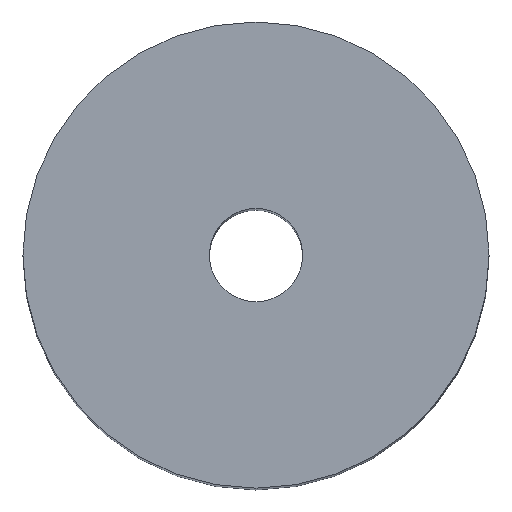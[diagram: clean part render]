
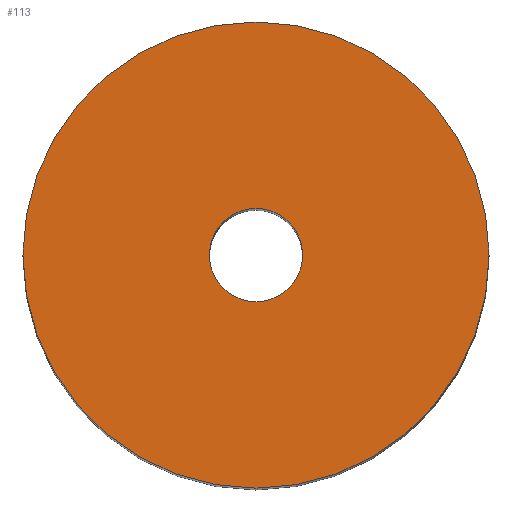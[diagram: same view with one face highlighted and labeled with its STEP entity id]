
A CAD part, top view. The second image highlights one B-rep face of the part: STEP entity #113.
In plain terms, the highlighted planar face has unit normal (0, 0, 1).
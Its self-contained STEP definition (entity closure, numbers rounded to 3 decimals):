
#113=ADVANCED_FACE('',(#121,#122),#119,.T.);
#119=PLANE('',#190);
#121=FACE_BOUND('',#125,.T.);
#122=FACE_BOUND('',#126,.T.);
#125=EDGE_LOOP('',(#133,#134));
#126=EDGE_LOOP('',(#135,#136));
#133=ORIENTED_EDGE('',*,*,#165,.T.);
#134=ORIENTED_EDGE('',*,*,#166,.T.);
#135=ORIENTED_EDGE('',*,*,#167,.F.);
#136=ORIENTED_EDGE('',*,*,#168,.F.);
#157=VERTEX_POINT('',#236);
#158=VERTEX_POINT('',#237);
#159=VERTEX_POINT('',#240);
#160=VERTEX_POINT('',#241);
#165=EDGE_CURVE('',#157,#158,#177,.T.);
#166=EDGE_CURVE('',#158,#157,#178,.T.);
#167=EDGE_CURVE('',#159,#160,#179,.T.);
#168=EDGE_CURVE('',#160,#159,#180,.T.);
#177=CIRCLE('',#186,55.);
#178=CIRCLE('',#187,55.);
#179=CIRCLE('',#188,11.);
#180=CIRCLE('',#189,11.);
#186=AXIS2_PLACEMENT_3D('',#235,#202,#203);
#187=AXIS2_PLACEMENT_3D('',#238,#204,#205);
#188=AXIS2_PLACEMENT_3D('',#239,#206,#207);
#189=AXIS2_PLACEMENT_3D('',#242,#208,#209);
#190=AXIS2_PLACEMENT_3D('',#243,#210,#211);
#202=DIRECTION('',(0.,0.,1.));
#203=DIRECTION('',(0.,1.,0.));
#204=DIRECTION('',(0.,0.,1.));
#205=DIRECTION('',(0.,-1.,0.));
#206=DIRECTION('',(0.,0.,1.));
#207=DIRECTION('',(0.,-1.,0.));
#208=DIRECTION('',(0.,0.,1.));
#209=DIRECTION('',(0.,1.,0.));
#210=DIRECTION('',(0.,0.,1.));
#211=DIRECTION('',(0.,1.,0.));
#235=CARTESIAN_POINT('',(0.,0.,250.));
#236=CARTESIAN_POINT('',(-55.,0.,250.));
#237=CARTESIAN_POINT('',(55.,0.,250.));
#238=CARTESIAN_POINT('',(0.,0.,250.));
#239=CARTESIAN_POINT('',(0.,0.,250.));
#240=CARTESIAN_POINT('',(11.,0.,250.));
#241=CARTESIAN_POINT('',(-11.,0.,250.));
#242=CARTESIAN_POINT('',(0.,0.,250.));
#243=CARTESIAN_POINT('',(0.,0.,250.));
